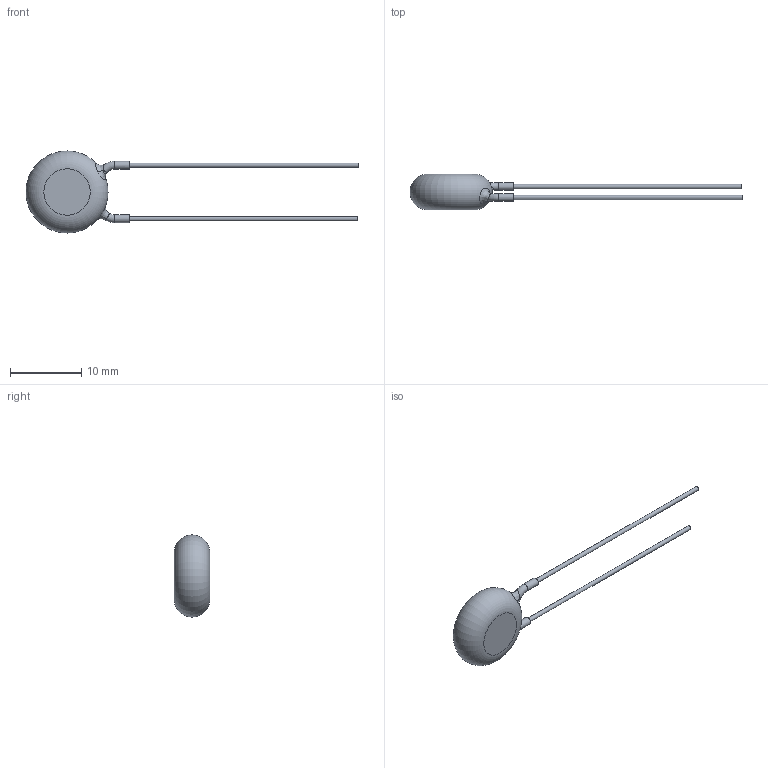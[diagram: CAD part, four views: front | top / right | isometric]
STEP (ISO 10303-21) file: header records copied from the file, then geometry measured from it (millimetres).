
FILE_DESCRIPTION((''),'2;1');
FILE_NAME('I:\Marketing\M6t1\3D-Models\Zchng-Werk-3\Upload for homepage\BCC\AY2\Y5U-7,5mm\AY2392M43Y5US63L7\AY2392M43Y5US63L7.stp','2015-09-09T08:49:05',(''),(''),'Autodesk Inventor 2013','Autodesk Inventor 2013','');
FILE_SCHEMA(('AUTOMOTIVE_DESIGN { 1 0 10303 214 1 1 1 1 }'));
Length unit declared in the file: centimetre
Products named in the file (1): AY2392M43Y5US63L7
Bounding box: 46.5 x 5 x 11.49 mm (x, y, z)
Volume: 459 mm3; surface area: 453.9 mm2
Topology: 1 solids, 1 shells, 19 faces, 35 edges, 22 vertices
Faces by surface type: cylinder 6, plane 6, bspline 4, torus 3
Full cylindrical faces by diameter (mm): 0.6 x2, 1.1 x2
Entity records: 703 total; most frequent: CARTESIAN_POINT 332, DIRECTION 64, ORIENTED_EDGE 48, AXIS2_PLACEMENT_3D 32, EDGE_LOOP 30, EDGE_CURVE 24, STYLED_ITEM 20, FACE_OUTER_BOUND 19
